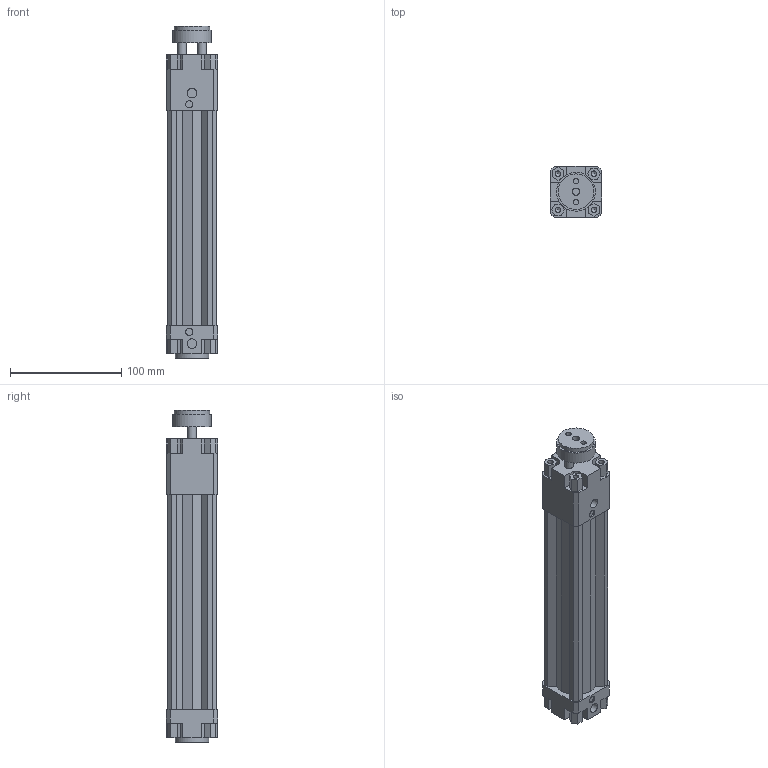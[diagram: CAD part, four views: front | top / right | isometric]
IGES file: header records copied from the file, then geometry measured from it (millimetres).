
Global section: file name: 134#_032_0150_01; native system: Autodesk Inventor 2014; preprocessor: unknown; author: A. Manieri; date: 20161006.164214; units: millimetre
Bounding box: 46 x 46 x 299 mm (x, y, z)
Volume: 335815.2 mm3; surface area: 105700.5 mm2
Topology: 2 solids, 2 shells, 187 faces, 507 edges, 343 vertices
Faces by surface type: bspline 187
